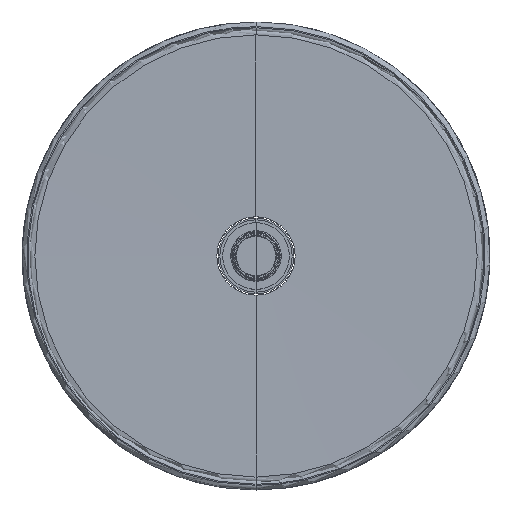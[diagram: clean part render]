
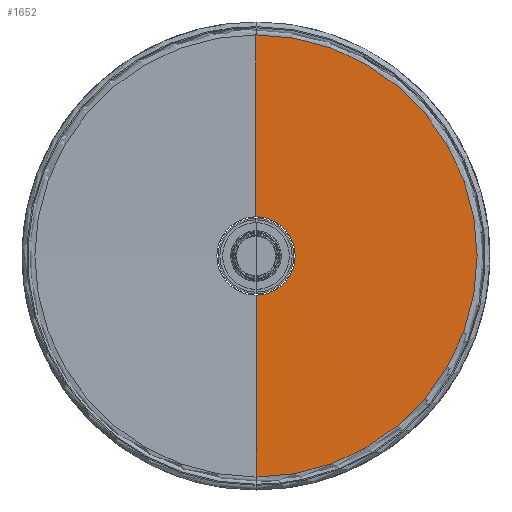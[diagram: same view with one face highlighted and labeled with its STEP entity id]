
A CAD part, top view. The second image highlights one B-rep face of the part: STEP entity #1652.
In plain terms, the highlighted conical face has half-angle 89.632 degrees and reference radius 173.45 mm.
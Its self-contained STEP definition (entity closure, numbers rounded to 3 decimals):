
#22=CONICAL_SURFACE('',#1856,173.45,1.564);
#258=FACE_OUTER_BOUND('',#368,.T.);
#368=EDGE_LOOP('',(#1470,#1471,#1472,#1473));
#468=CIRCLE('',#1857,189.);
#469=CIRCLE('',#1858,33.5);
#552=LINE('',#4122,#634);
#553=LINE('',#4126,#635);
#634=VECTOR('',#2332,304.8);
#635=VECTOR('',#2335,304.8);
#770=VERTEX_POINT('',#4120);
#771=VERTEX_POINT('',#4121);
#772=VERTEX_POINT('',#4123);
#773=VERTEX_POINT('',#4125);
#1004=EDGE_CURVE('',#770,#771,#552,.T.);
#1005=EDGE_CURVE('',#772,#770,#468,.T.);
#1006=EDGE_CURVE('',#773,#772,#553,.T.);
#1007=EDGE_CURVE('',#771,#773,#469,.T.);
#1470=ORIENTED_EDGE('',*,*,#1004,.F.);
#1471=ORIENTED_EDGE('',*,*,#1005,.F.);
#1472=ORIENTED_EDGE('',*,*,#1006,.F.);
#1473=ORIENTED_EDGE('',*,*,#1007,.F.);
#1652=ADVANCED_FACE('',(#258),#22,.F.);
#1856=AXIS2_PLACEMENT_3D('',#4119,#2330,#2331);
#1857=AXIS2_PLACEMENT_3D('',#4124,#2333,#2334);
#1858=AXIS2_PLACEMENT_3D('',#4127,#2336,#2337);
#2330=DIRECTION('center_axis',(0.,0.,
1.));
#2331=DIRECTION('ref_axis',(1.,0.,0.));
#2332=DIRECTION('',(0.,1.,-0.006));
#2333=DIRECTION('center_axis',(0.,0.,
-1.));
#2334=DIRECTION('ref_axis',(-0.588,-0.809,0.));
#2335=DIRECTION('',(0.,1.,0.006));
#2336=DIRECTION('center_axis',(0.,0.,1.));
#2337=DIRECTION('ref_axis',(0.,-1.,0.));
#4119=CARTESIAN_POINT('Origin',(0.,0.,
9.9));
#4120=CARTESIAN_POINT('',(0.,-189.,10.));
#4121=CARTESIAN_POINT('',(0.,-33.5,9.));
#4122=CARTESIAN_POINT('',(0.,-189.,10.));
#4123=CARTESIAN_POINT('',(0.,189.,10.));
#4124=CARTESIAN_POINT('Origin',(0.,0.,
10.));
#4125=CARTESIAN_POINT('',(0.,33.5,9.));
#4126=CARTESIAN_POINT('',(0.,33.5,9.));
#4127=CARTESIAN_POINT('Origin',(0.,0.,9.));
